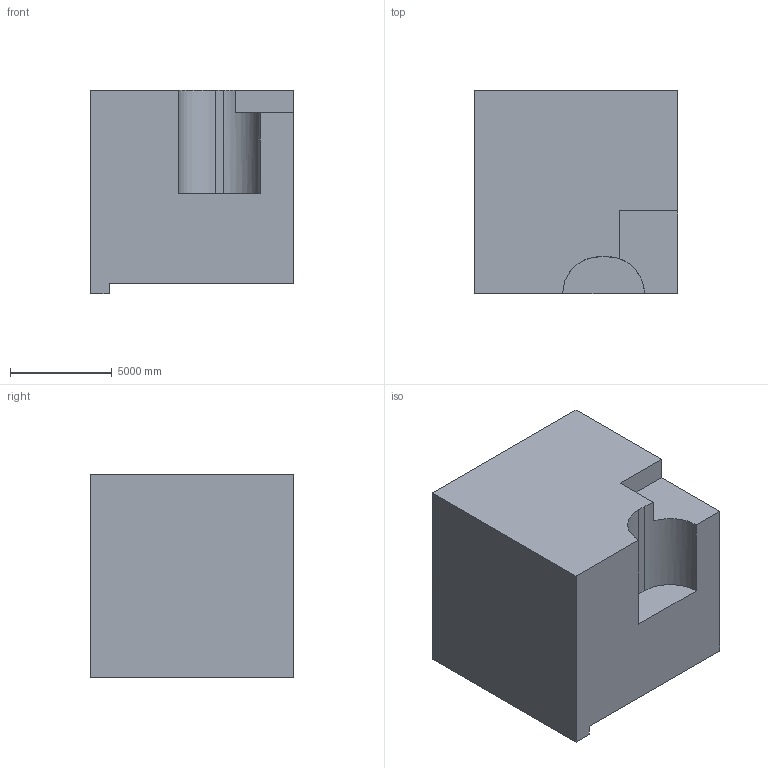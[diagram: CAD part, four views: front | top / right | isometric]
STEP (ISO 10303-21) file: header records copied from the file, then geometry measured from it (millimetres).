
FILE_DESCRIPTION (( 'STEP AP203' ), '1' );
FILE_NAME ('132.STEP', '2022-09-05T15:39:29', ( 'user' ), ( '' ), 'SwSTEP 2.0', 'SolidWorks 2021', '' );
FILE_SCHEMA (( 'CONFIG_CONTROL_DESIGN' ));
Length unit declared in the file: centimetre
Products named in the file (1): 132
Bounding box: 10000 x 10000 x 10000 mm (x, y, z)
Volume: 898755355241.8 mm3; surface area: 603511382 mm2
Topology: 1 solids, 1 shells, 19 faces, 51 edges, 34 vertices
Faces by surface type: plane 17, cylinder 2
Entity records: 667 total; most frequent: CARTESIAN_POINT 105, ORIENTED_EDGE 102, DIRECTION 96, EDGE_CURVE 51, VECTOR 46, LINE 46, VERTEX_POINT 34, AXIS2_PLACEMENT_3D 25
